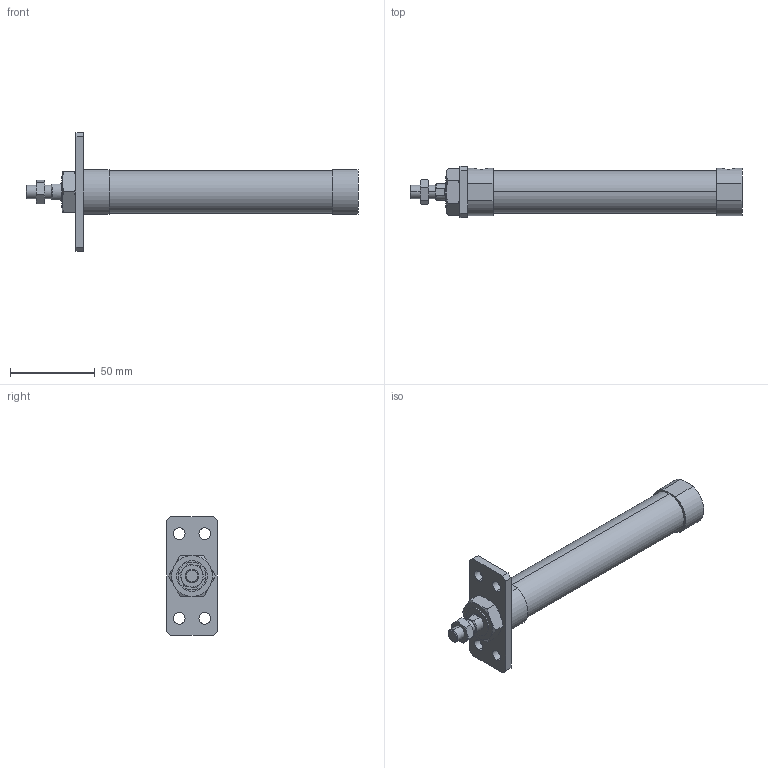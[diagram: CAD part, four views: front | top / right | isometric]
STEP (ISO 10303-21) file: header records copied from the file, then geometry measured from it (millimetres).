
FILE_DESCRIPTION (( 'STEP AP203' ), '1' );
FILE_NAME ('JGND2-20-100-A.STEP', '2016-08-04T02:29:34', ( '' ), ( '' ), 'SwSTEP 2.0', 'SolidWorks 2014', '' );
FILE_SCHEMA (( 'CONFIG_CONTROL_DESIGN' ));
Length unit declared in the file: millimetre
Products named in the file (5): J#2-20-A; J#2-20-100(P); JGND2-20-100-A
Assembly tree (4 placements, depth 2):
  JGND2-20-100-A
    J#2-20-100(P)
    (unnamed)
    (unnamed)
    J#2-20-A
Bounding box: 196 x 30 x 70 mm (x, y, z)
Volume: 96143.5 mm3; surface area: 23417.1 mm2
Topology: 4 solids, 4 shells, 104 faces, 236 edges, 148 vertices
Faces by surface type: plane 44, cylinder 32, torus 24, cone 4
Entity records: 3803 total; most frequent: CARTESIAN_POINT 951, DIRECTION 494, ORIENTED_EDGE 472, EDGE_CURVE 236, AXIS2_PLACEMENT_3D 203, VERTEX_POINT 148, EDGE_LOOP 126, ADVANCED_FACE 104
